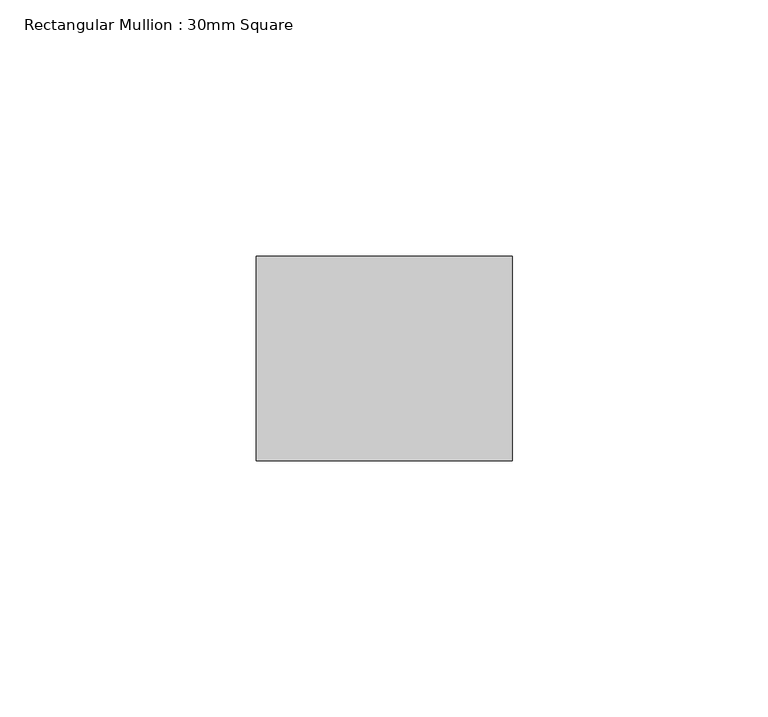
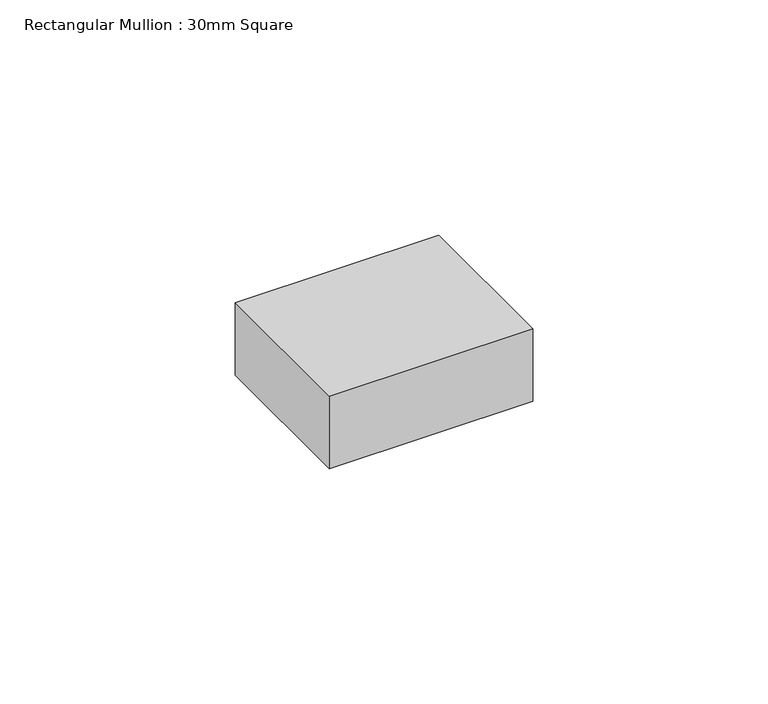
"""IFC4 building model written with IfcOpenShell, lengths in millimetres: member geometry, Rectangular Mullion : 30mm Square."""

from ifc_helpers import new_model, si_unit, frame, origin, place, context, project, spatial, polyline, outline, extrude, source, transform, mapped, element, save


def rectangular_mullion_30mm_square_b878c449(model_context):
    return source(origin(), model_context, "Body", "SweptSolid", [
        extrude(outline(polyline([(25.0, 20.0), (25.0, -20.0), (-25.0, -20.0), (-25.0, 20.0), (25.0, 20.0)])), frame((0.0, 0.0, -18.8162338), z_axis=(0.0, 0.0, 1.0), x_axis=(1.0, 0.0, 0.0)), (0.0, 0.0, 1.0), 18.8162338),
    ])


if __name__ == "__main__":
    model = new_model("IFC4")
    model_context = context("Model", 3, world=origin())
    ifc_project = project(units=[si_unit("LENGTHUNIT", "METRE", prefix="MILLI")], contexts=[model_context])
    site = spatial("IfcSite", under=ifc_project)
    building = spatial("IfcBuilding", under=site)
    placement = place(None, origin())
    rectangular_mullion_30mm_square_shape = rectangular_mullion_30mm_square_b878c449(model_context)
    element("IfcMember", 1, ObjectType="Rectangular Mullion : 30mm Square", at=placement, inside=building, context=model_context, shape_type="MappedRepresentation", body=[
        mapped(rectangular_mullion_30mm_square_shape, transform((0.0, 0.0, 0.0), x_axis=(1.0, 0.0, 0.0), y_axis=(0.0, 1.0, 0.0), z_axis=(0.0, 0.0, 1.0))),
    ])
    save(model, "model.ifc")
